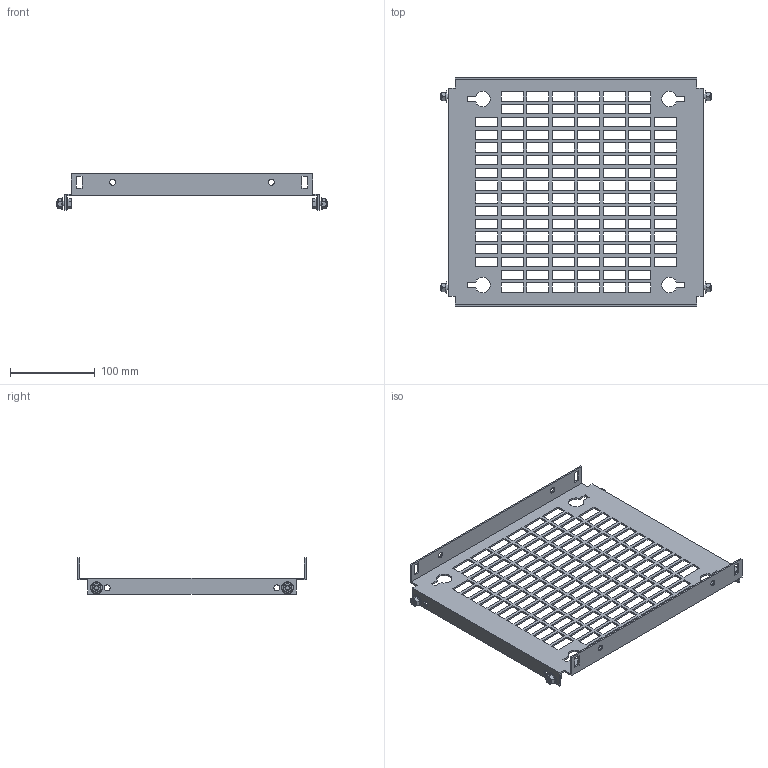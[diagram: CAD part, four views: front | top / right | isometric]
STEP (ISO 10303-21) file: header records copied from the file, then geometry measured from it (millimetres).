
FILE_DESCRIPTION(('Open CASCADE Model'),'2;1');
FILE_NAME('Open CASCADE Shape Model','2025-02-19T16:48:09',('Author'),( 'Open CASCADE'),'Open CASCADE STEP processor 7.8','Open CASCADE 7.8' ,'Unknown');
FILE_SCHEMA(('AUTOMOTIVE_DESIGN { 1 0 10303 214 1 1 1 1 }'));
Length unit declared in the file: millimetre
Products named in the file (4): Compound1; Solid1; Solid2; Solid3
Assembly tree (9 placements, depth 2):
  Compound1
    Solid1
    Solid2  x4
    Solid3  x4
Bounding box: 320 x 269 x 43 mm (x, y, z)
Volume: 137614.2 mm3; surface area: 158617.8 mm2
Topology: 9 solids, 9 shells, 770 faces, 2138 edges, 1390 vertices
Faces by surface type: plane 614, cone 68, bspline 48, cylinder 28, torus 12
Full cylindrical faces by diameter (mm): 5 x4, 6 x8, 7 x12
Entity records: 21024 total; most frequent: CARTESIAN_POINT 4207, ORIENTED_EDGE 3598, DIRECTION 3008, EDGE_CURVE 1799, LINE 1648, VECTOR 1648, VERTEX_POINT 1192, FACE_BOUND 897
